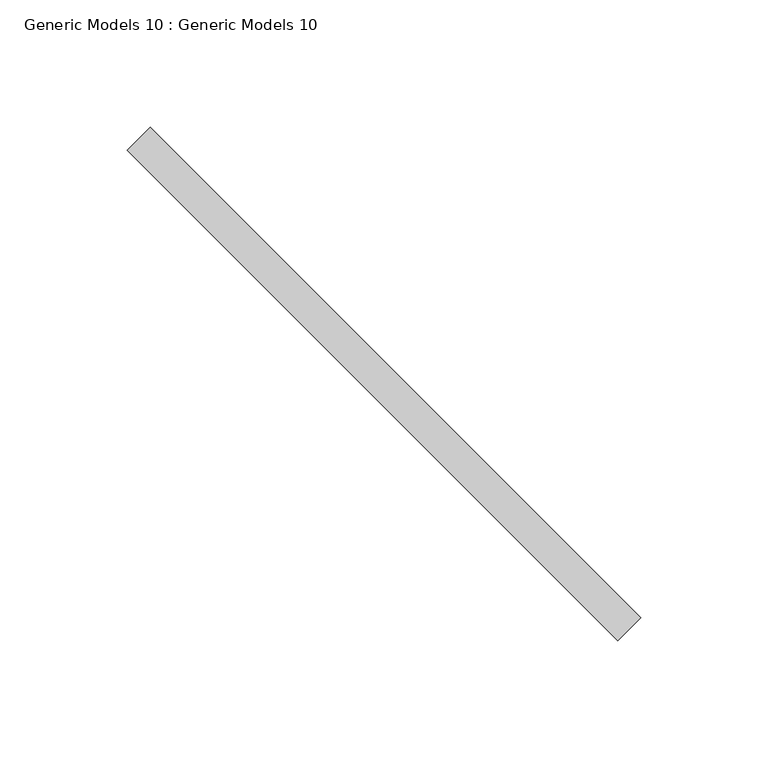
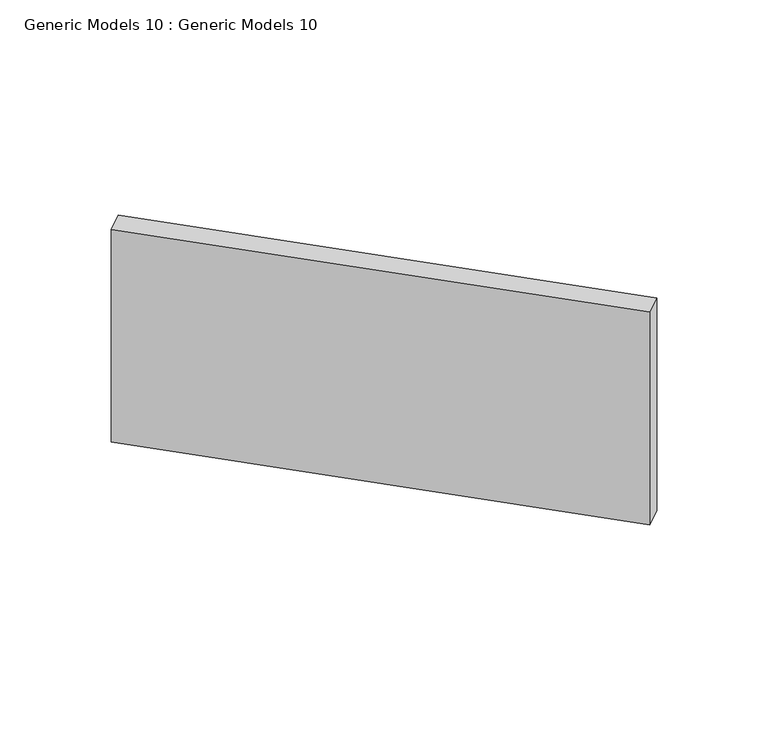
"""IFC4 building model written with IfcOpenShell, lengths in millimetres: proxy geometry, Generic Models 10 : Generic Models 10."""

import ifcopenshell
import ifcopenshell.guid

model = None  # the IFC model being written
_history = None  # IfcOwnerHistory: only IFC2X3 demands one
_inside = {}  # id of a spatial element -> (the spatial element, [elements in it])
_under = {}  # id of a project, library or spatial element -> (it, [spatial elements below it])
_declared = {}  # id of a project -> (the project, [libraries it declares])
_typed = {}  # id of a type object -> (the type object, [elements of that type])
_made_of = {}  # id of a material, layer set ... -> (it, [elements and type objects made of it])


def new_model(schema):
    """Start an empty IFC model of exactly this schema.

    Asked for "IFC4X3", IfcOpenShell would pick the latest addendum, in which some entities
    have other attributes; the version numbers below select the first issue.
    IFC2X3 requires an IfcOwnerHistory on every rooted entity: one is made here for all.
    """
    global model, _history
    if schema == "IFC4X3":
        model = ifcopenshell.file(schema_version=(4, 3, 0, 0))
    else:
        model = ifcopenshell.file(schema=schema)
    _inside.clear()
    _under.clear()
    _declared.clear()
    _typed.clear()
    _made_of.clear()
    _history = None
    if model.schema == "IFC2X3":
        org = make("IfcOrganization", Name="unknown")
        user = make(
            "IfcPersonAndOrganization",
            ThePerson=make("IfcPerson", FamilyName="unknown"),
            TheOrganization=org,
        )
        app = make(
            "IfcApplication",
            ApplicationDeveloper=org,
            Version="unknown",
            ApplicationFullName="unknown",
            ApplicationIdentifier="unknown",
        )
        _history = make(
            "IfcOwnerHistory",
            OwningUser=user,
            OwningApplication=app,
            ChangeAction="ADDED",
            CreationDate=0,
        )
    return model


def make(cls, **values):
    """One entity of the class cls with the attributes given. An attribute that is None is left unset."""
    return model.create_entity(
        cls, **{name: value for name, value in values.items() if value is not None}
    )


def rooted(cls, **values):
    """An entity with a GlobalId (a new one), such as an element, a storey or a relation."""
    return make(cls, GlobalId=ifcopenshell.guid.new(), OwnerHistory=_history, **values)


def si_unit(unit_type, name, prefix=None):
    """IfcSIUnit, for example si_unit("LENGTHUNIT", "METRE", prefix="MILLI")."""
    return make("IfcSIUnit", UnitType=unit_type, Prefix=prefix, Name=name)


def assignment(units):
    """IfcUnitAssignment: the units of a project."""
    return None if units is None else make("IfcUnitAssignment", Units=units)


def point(xyz):
    """IfcCartesianPoint."""
    return None if xyz is None else make("IfcCartesianPoint", Coordinates=xyz)


def direction(xyz):
    """IfcDirection."""
    return None if xyz is None else make("IfcDirection", DirectionRatios=xyz)


def frame(location, z_axis=None, x_axis=None):
    """IfcAxis2Placement3D, a coordinate frame: its origin and axes. An axis left out is left unset."""
    return make(
        "IfcAxis2Placement3D",
        Location=point(location),
        Axis=direction(z_axis),
        RefDirection=direction(x_axis),
    )


def origin():
    """The frame at (0, 0, 0) with its axes left unset."""
    return frame((0.0, 0.0, 0.0))


def place(relative_to, where):
    """IfcLocalPlacement: puts the frame where relative to a parent placement (None: the world)."""
    return make(
        "IfcLocalPlacement", PlacementRelTo=relative_to, RelativePlacement=where
    )


def context(
    kind, dimensions, precision=None, world=None, true_north=None, identifier=None
):
    """IfcGeometricRepresentationContext, for example the 3D "Model" context."""
    return make(
        "IfcGeometricRepresentationContext",
        ContextIdentifier=identifier,
        ContextType=kind,
        CoordinateSpaceDimension=dimensions,
        Precision=precision,
        WorldCoordinateSystem=world,
        TrueNorth=true_north,
    )


def project(units=None, contexts=None):
    """IfcProject with its units and contexts."""
    return rooted(
        "IfcProject",
        Name="project",
        RepresentationContexts=contexts,
        UnitsInContext=assignment(units),
    )


def spatial(cls, under=None, at=None, **own):
    """A site, building, storey or space (cls), placed at a placement, below another one or the project."""
    s = rooted(cls, ObjectPlacement=at, **own)
    if under is not None:
        _under.setdefault(under.id(), (under, []))[1].append(s)
    return s


def polyline(points):
    """IfcPolyline through the points."""
    return make("IfcPolyline", Points=[point(p) for p in points])


def outline(outer, holes=None, kind="AREA"):
    """IfcArbitraryClosedProfileDef: a profile drawn as a closed curve; with holes, ...WithVoids."""
    if holes is None:
        return make("IfcArbitraryClosedProfileDef", ProfileType=kind, OuterCurve=outer)
    return make(
        "IfcArbitraryProfileDefWithVoids",
        ProfileType=kind,
        OuterCurve=outer,
        InnerCurves=holes,
    )


def extrude(swept, where, along, depth):
    """IfcExtrudedAreaSolid: the profile swept, set in the frame where, extruded along a direction by depth."""
    return make(
        "IfcExtrudedAreaSolid",
        SweptArea=swept,
        Position=where,
        ExtrudedDirection=direction(along),
        Depth=depth,
    )


def shape(context_of_items, identifier, shape_type, items):
    """IfcShapeRepresentation: the items that make up one representation, for example the "Body"."""
    return make(
        "IfcShapeRepresentation",
        ContextOfItems=context_of_items,
        RepresentationIdentifier=identifier,
        RepresentationType=shape_type,
        Items=items,
    )


def source(mapping_origin, context_of_items, identifier, shape_type, items):
    """IfcRepresentationMap: a shape defined once, which mapped items show again and again."""
    return make(
        "IfcRepresentationMap",
        MappingOrigin=mapping_origin,
        MappedRepresentation=shape(context_of_items, identifier, shape_type, items),
    )


def transform(
    local_origin,
    x_axis=None,
    y_axis=None,
    z_axis=None,
    scale=None,
    scale2=None,
    scale3=None,
    uniform=True,
):
    """IfcCartesianTransformationOperator3D, or its non-uniform kind. x_axis, y_axis, z_axis: its Axis1, 2, 3."""
    if uniform:
        return make(
            "IfcCartesianTransformationOperator3D",
            Axis1=direction(x_axis),
            Axis2=direction(y_axis),
            LocalOrigin=point(local_origin),
            Scale=scale,
            Axis3=direction(z_axis),
        )
    return make(
        "IfcCartesianTransformationOperator3DnonUniform",
        Axis1=direction(x_axis),
        Axis2=direction(y_axis),
        LocalOrigin=point(local_origin),
        Scale=scale,
        Axis3=direction(z_axis),
        Scale2=scale2,
        Scale3=scale3,
    )


def mapped(mapping_source, mapping_target):
    """IfcMappedItem: shows the shape of a source again, moved by a transform."""
    return make(
        "IfcMappedItem", MappingSource=mapping_source, MappingTarget=mapping_target
    )


def made_of(thing, what):
    """Note that an element or type object is made of a material, layer set ...; save() writes the relation."""
    if what is not None:
        _made_of.setdefault(what.id(), (what, []))[1].append(thing)
    return thing


def element(
    cls,
    number,
    at=None,
    inside=None,
    cuts=None,
    type_object=None,
    material=None,
    context=None,
    identifier="Body",
    shape_type=None,
    held_by="IfcProductDefinitionShape",
    body=None,
    shapes=None,
    **own,
):
    """One element of the class cls, such as IfcWall. Its Tag is "e" and its number.

    at: its placement. inside: the storey or other place that contains it. cuts: it is an
    opening in that element (IfcRelVoidsElement). A single representation is given by context,
    identifier, shape_type and body (its items); several are given by shapes. held_by: the class
    of the entity that holds the representations. save() writes the other relations.
    """
    e = rooted(cls, Tag="e%d" % number, ObjectPlacement=at, **own)
    if body is not None:
        shapes = [shape(context, identifier, shape_type, body)]
    if shapes is not None:
        e.Representation = make(held_by, Representations=shapes)
    if inside is not None:
        _inside.setdefault(inside.id(), (inside, []))[1].append(e)
    if cuts is not None:
        rooted(
            "IfcRelVoidsElement", RelatingBuildingElement=cuts, RelatedOpeningElement=e
        )
    if type_object is not None:
        _typed.setdefault(type_object.id(), (type_object, []))[1].append(e)
    return made_of(e, material)


def aggregate(whole, parts):
    """IfcRelAggregates: a whole, such as a stair, and the parts it consists of."""
    return rooted("IfcRelAggregates", RelatingObject=whole, RelatedObjects=parts)


def save(model, path):
    """Write the relations noted so far, then the file.

    IfcRelAggregates (storeys below a building ...), IfcRelContainedInSpatialStructure (elements
    in a storey), IfcRelDefinesByType, IfcRelAssociatesMaterial and IfcRelDeclares: one each for
    every whole, place, type object, material and project.
    """
    for whole, parts in _under.values():
        aggregate(whole, parts)
    for where, things in _inside.values():
        rooted(
            "IfcRelContainedInSpatialStructure",
            RelatedElements=things,
            RelatingStructure=where,
        )
    for kind, things in _typed.values():
        rooted("IfcRelDefinesByType", RelatedObjects=things, RelatingType=kind)
    for what, things in _made_of.values():
        rooted("IfcRelAssociatesMaterial", RelatedObjects=things, RelatingMaterial=what)
    for by, libraries in _declared.values():
        rooted("IfcRelDeclares", RelatingContext=by, RelatedDefinitions=libraries)
    model.write(path)


def generic_models_10_generic_models_10_af9f11de(model_context):
    return source(origin(), model_context, "Body", "SweptSolid", [
        extrude(outline(polyline([(3793.1371011, 3019.3234111), (3985.9033277, 2826.5571846), (3976.9230716, 2817.5769284), (3784.156845, 3010.343155), (3793.1371011, 3019.3234111)])), frame((0.0, 0.0, 573.88125), z_axis=(0.0, 0.0, 1.0), x_axis=(1.0, 0.0, 0.0)), (0.0, 0.0, 1.0), 127.0),
    ])


if __name__ == "__main__":
    model = new_model("IFC4")
    model_context = context("Model", 3, world=origin())
    ifc_project = project(units=[si_unit("LENGTHUNIT", "METRE", prefix="MILLI")], contexts=[model_context])
    site = spatial("IfcSite", under=ifc_project)
    building = spatial("IfcBuilding", under=site)
    placement = place(None, origin())
    generic_models_10_generic_models_10_shape = generic_models_10_generic_models_10_af9f11de(model_context)
    element("IfcBuildingElementProxy", 1, Name="Generic Models 10 : Generic Models 10", ObjectType="Generic Models 10 : Generic Models 10", at=placement, inside=building, context=model_context, shape_type="MappedRepresentation", body=[
        mapped(generic_models_10_generic_models_10_shape, transform((0.0, 0.0, 0.0), x_axis=(1.0, 0.0, 0.0), y_axis=(0.0, 1.0, 0.0), z_axis=(0.0, 0.0, 1.0))),
    ])
    save(model, "model.ifc")
